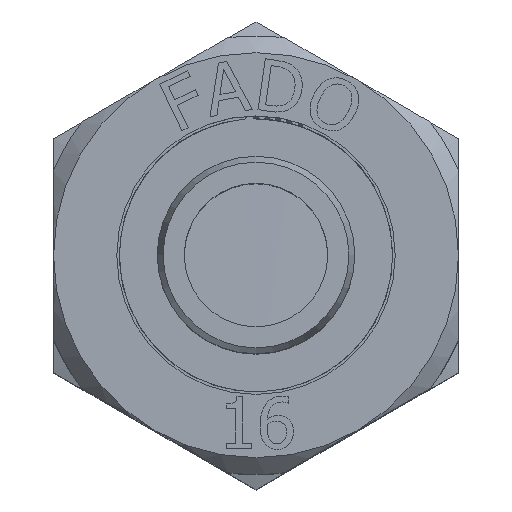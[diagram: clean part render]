
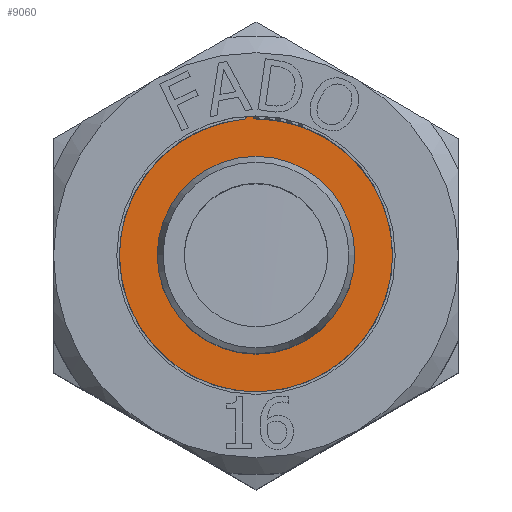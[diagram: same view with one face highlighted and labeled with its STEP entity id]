
A CAD part, top view. The second image highlights one B-rep face of the part: STEP entity #9060.
In plain terms, the highlighted planar face has unit normal (0, 0, 1) as drawn and (0, 0, -1) by its records, which use the part's own axes.
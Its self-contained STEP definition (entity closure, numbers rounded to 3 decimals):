
#944=FACE_BOUND('',#3019,.T.);
#1136=PLANE('',#9710);
#2472=FACE_OUTER_BOUND('',#3018,.T.);
#3018=EDGE_LOOP('',(#7105,#7106));
#3019=EDGE_LOOP('',(#7107,#7108));
#3447=CIRCLE('',#9708,5.85);
#3448=CIRCLE('',#9709,5.85);
#3449=CIRCLE('',#9711,8.25);
#3450=CIRCLE('',#9712,8.25);
#4006=VERTEX_POINT('',#27799);
#4007=VERTEX_POINT('',#27800);
#4008=VERTEX_POINT('',#27805);
#4009=VERTEX_POINT('',#27806);
#5137=EDGE_CURVE('',#4006,#4007,#3447,.T.);
#5138=EDGE_CURVE('',#4007,#4006,#3448,.T.);
#5140=EDGE_CURVE('',#4008,#4009,#3449,.T.);
#5141=EDGE_CURVE('',#4009,#4008,#3450,.T.);
#7105=ORIENTED_EDGE('',*,*,#5140,.F.);
#7106=ORIENTED_EDGE('',*,*,#5141,.F.);
#7107=ORIENTED_EDGE('',*,*,#5137,.T.);
#7108=ORIENTED_EDGE('',*,*,#5138,.T.);
#9060=ADVANCED_FACE('',(#2472,#944),#1136,.T.);
#9708=AXIS2_PLACEMENT_3D('',#27801,#10712,#10713);
#9709=AXIS2_PLACEMENT_3D('',#27802,#10714,#10715);
#9710=AXIS2_PLACEMENT_3D('',#27804,#10717,#10718);
#9711=AXIS2_PLACEMENT_3D('',#27807,#10719,#10720);
#9712=AXIS2_PLACEMENT_3D('',#27808,#10721,#10722);
#10712=DIRECTION('center_axis',(0.,0.,1.));
#10713=DIRECTION('ref_axis',(1.,0.,0.));
#10714=DIRECTION('center_axis',(0.,0.,1.));
#10715=DIRECTION('ref_axis',(1.,0.,0.));
#10717=DIRECTION('center_axis',(0.,0.,-1.));
#10718=DIRECTION('ref_axis',(-1.,0.,0.));
#10719=DIRECTION('center_axis',(0.,0.,1.));
#10720=DIRECTION('ref_axis',(1.,0.,0.));
#10721=DIRECTION('center_axis',(0.,0.,1.));
#10722=DIRECTION('ref_axis',(1.,0.,0.));
#27799=CARTESIAN_POINT('',(0.,-5.85,-7.1));
#27800=CARTESIAN_POINT('',(0.,5.85,-7.1));
#27801=CARTESIAN_POINT('Origin',(0.,0.,-7.1));
#27802=CARTESIAN_POINT('Origin',(0.,0.,-7.1));
#27804=CARTESIAN_POINT('Origin',(0.,-8.25,-7.1));
#27805=CARTESIAN_POINT('',(0.,-8.25,-7.1));
#27806=CARTESIAN_POINT('',(0.,8.25,-7.1));
#27807=CARTESIAN_POINT('Origin',(0.,0.,-7.1));
#27808=CARTESIAN_POINT('Origin',(0.,0.,-7.1));
